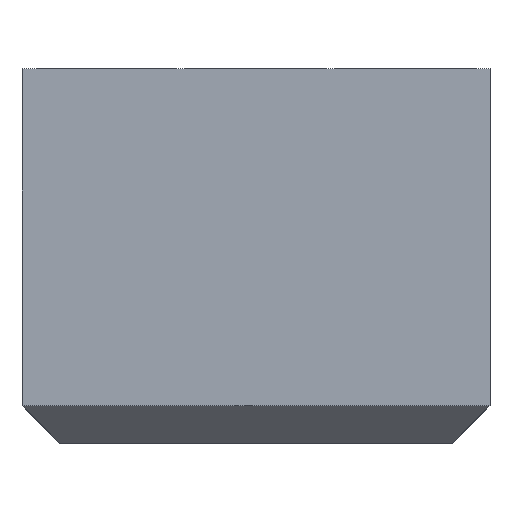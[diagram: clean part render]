
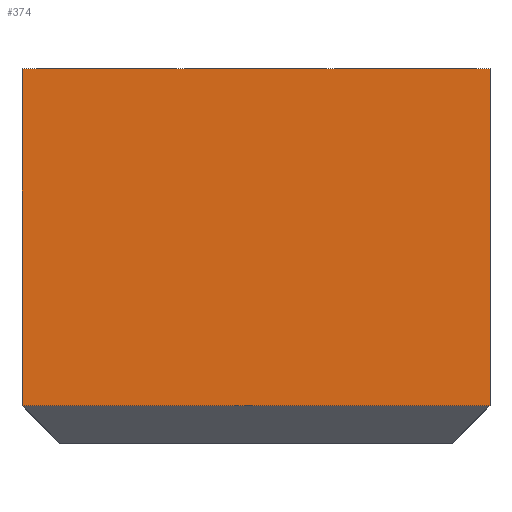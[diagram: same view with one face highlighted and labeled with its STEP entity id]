
A CAD part, top view. The second image highlights one B-rep face of the part: STEP entity #374.
In plain terms, the highlighted planar face has unit normal (0, 0, 1).
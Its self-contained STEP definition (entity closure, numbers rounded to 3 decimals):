
#63=CARTESIAN_POINT('Vertex',(-25.,40.,11.)) ;
#66=CARTESIAN_POINT('Line Origine',(0.,40.,11.)) ;
#70=CARTESIAN_POINT('Vertex',(25.,40.,11.)) ;
#329=CARTESIAN_POINT('Vertex',(-25.,4.,11.)) ;
#334=CARTESIAN_POINT('Line Origine',(-25.,22.,11.)) ;
#351=CARTESIAN_POINT('Axis2P3D Location',(25.,40.,11.)) ;
#356=CARTESIAN_POINT('Line Origine',(0.,4.,11.)) ;
#360=CARTESIAN_POINT('Vertex',(25.,4.,11.)) ;
#363=CARTESIAN_POINT('Line Origine',(25.,22.,11.)) ;
#67=DIRECTION('Vector Direction',(-1.,0.,0.)) ;
#335=DIRECTION('Vector Direction',(0.,-1.,0.)) ;
#352=DIRECTION('Axis2P3D Direction',(0.,0.,-1.)) ;
#353=DIRECTION('Axis2P3D XDirection',(-1.,0.,0.)) ;
#357=DIRECTION('Vector Direction',(-1.,0.,0.)) ;
#364=DIRECTION('Vector Direction',(0.,-1.,0.)) ;
#354=AXIS2_PLACEMENT_3D('Plane Axis2P3D',#351,#352,#353) ;
#369=ORIENTED_EDGE('',*,*,#338,.T.) ;
#370=ORIENTED_EDGE('',*,*,#362,.F.) ;
#371=ORIENTED_EDGE('',*,*,#367,.F.) ;
#372=ORIENTED_EDGE('',*,*,#72,.T.) ;
#68=VECTOR('Line Direction',#67,1.) ;
#336=VECTOR('Line Direction',#335,1.) ;
#358=VECTOR('Line Direction',#357,1.) ;
#365=VECTOR('Line Direction',#364,1.) ;
#374=ADVANCED_FACE('761-040050',(#373),#355,.F.) ;
#72=EDGE_CURVE('',#71,#64,#69,.T.) ;
#338=EDGE_CURVE('',#64,#330,#337,.T.) ;
#362=EDGE_CURVE('',#361,#330,#359,.T.) ;
#367=EDGE_CURVE('',#71,#361,#366,.T.) ;
#368=EDGE_LOOP('',(#369,#370,#371,#372)) ;
#373=FACE_OUTER_BOUND('',#368,.T.) ;
#69=LINE('Line',#66,#68) ;
#337=LINE('Line',#334,#336) ;
#359=LINE('Line',#356,#358) ;
#366=LINE('Line',#363,#365) ;
#355=PLANE('Plane',#354) ;
#64=VERTEX_POINT('',#63) ;
#71=VERTEX_POINT('',#70) ;
#330=VERTEX_POINT('',#329) ;
#361=VERTEX_POINT('',#360) ;
